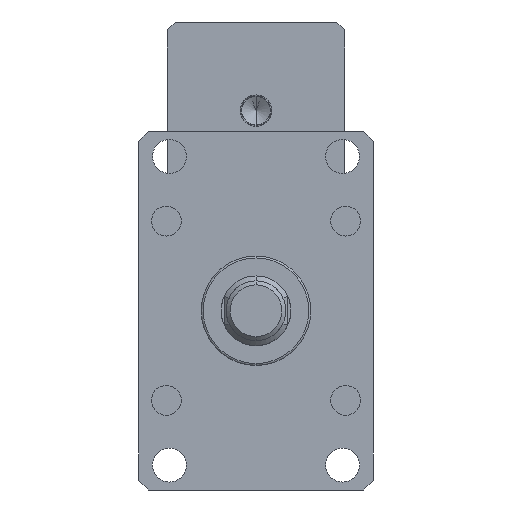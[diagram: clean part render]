
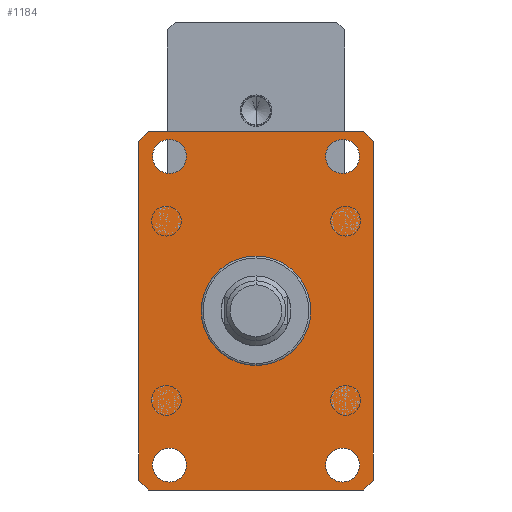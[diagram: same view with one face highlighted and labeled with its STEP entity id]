
A CAD part, front view. The second image highlights one B-rep face of the part: STEP entity #1184.
In plain terms, the highlighted planar face has unit normal (0, -1, 0).
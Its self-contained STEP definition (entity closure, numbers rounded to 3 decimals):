
#1 = VERTEX_POINT ( 'NONE', #10851 ) ;
#73 = CARTESIAN_POINT ( 'NONE',  ( -43.5, -55., -77.5 ) ) ;
#273 = CARTESIAN_POINT ( 'NONE',  ( 54., -55., 90. ) ) ;
#369 = EDGE_CURVE ( 'NONE', #1, #1921, #7012, .T. ) ;
#375 = ORIENTED_EDGE ( 'NONE', *, *, #2462, .T. ) ;
#418 = CARTESIAN_POINT ( 'NONE',  ( -59., -55., 85. ) ) ;
#448 = ORIENTED_EDGE ( 'NONE', *, *, #369, .T. ) ;
#453 = DIRECTION ( 'NONE',  ( 0., 0., 1. ) ) ;
#470 = ORIENTED_EDGE ( 'NONE', *, *, #4624, .F. ) ;
#483 = CARTESIAN_POINT ( 'NONE',  ( 43.5, -55., 69. ) ) ;
#488 = VERTEX_POINT ( 'NONE', #2943 ) ;
#687 = AXIS2_PLACEMENT_3D ( 'NONE', #73, #6825, #1028 ) ;
#701 = DIRECTION ( 'NONE',  ( 0., -1., 0. ) ) ;
#819 = DIRECTION ( 'NONE',  ( 0., 1., 0. ) ) ;
#846 = DIRECTION ( 'NONE',  ( 0.707, 0., 0.707 ) ) ;
#858 = EDGE_CURVE ( 'NONE', #1886, #2132, #4178, .T. ) ;
#861 = FACE_BOUND ( 'NONE', #6280, .T. ) ;
#1028 = DIRECTION ( 'NONE',  ( 0., 0., 1. ) ) ;
#1097 = ORIENTED_EDGE ( 'NONE', *, *, #4523, .T. ) ;
#1160 = FACE_BOUND ( 'NONE', #2180, .T. ) ;
#1184 = ADVANCED_FACE ( 'NONE', ( #1160, #861, #11184, #3411, #10889 ), #7749, .F. ) ;
#1386 = VERTEX_POINT ( 'NONE', #5522 ) ;
#1489 = ORIENTED_EDGE ( 'NONE', *, *, #4393, .T. ) ;
#1847 = AXIS2_PLACEMENT_3D ( 'NONE', #4198, #11038, #5178 ) ;
#1886 = VERTEX_POINT ( 'NONE', #10085 ) ;
#1921 = VERTEX_POINT ( 'NONE', #4429 ) ;
#1995 = DIRECTION ( 'NONE',  ( -0.707, 0., 0.707 ) ) ;
#2132 = VERTEX_POINT ( 'NONE', #6611 ) ;
#2141 = CARTESIAN_POINT ( 'NONE',  ( -59., -55., 85. ) ) ;
#2180 = EDGE_LOOP ( 'NONE', ( #7524, #5188 ) ) ;
#2193 = CIRCLE ( 'NONE', #7698, 8.5 ) ;
#2393 = LINE ( 'NONE', #5306, #7247 ) ;
#2462 = EDGE_CURVE ( 'NONE', #8118, #3808, #2193, .T. ) ;
#2609 = AXIS2_PLACEMENT_3D ( 'NONE', #3773, #10606, #4768 ) ;
#2691 = CARTESIAN_POINT ( 'NONE',  ( -59., -55., -85. ) ) ;
#2943 = CARTESIAN_POINT ( 'NONE',  ( -43.5, -55., 86. ) ) ;
#3090 = AXIS2_PLACEMENT_3D ( 'NONE', #6483, #701, #7488 ) ;
#3129 = CIRCLE ( 'NONE', #11623, 8.5 ) ;
#3315 = VERTEX_POINT ( 'NONE', #4162 ) ;
#3364 = CARTESIAN_POINT ( 'NONE',  ( -54., -55., -90. ) ) ;
#3411 = FACE_OUTER_BOUND ( 'NONE', #6104, .T. ) ;
#3760 = LINE ( 'NONE', #418, #8664 ) ;
#3773 = CARTESIAN_POINT ( 'NONE',  ( -43.5, -55., 77.5 ) ) ;
#3808 = VERTEX_POINT ( 'NONE', #5672 ) ;
#3843 = CIRCLE ( 'NONE', #2609, 8.5 ) ;
#3852 = DIRECTION ( 'NONE',  ( 0., 0., 1. ) ) ;
#4001 = CARTESIAN_POINT ( 'NONE',  ( -43.5, -55., -77.5 ) ) ;
#4055 = ORIENTED_EDGE ( 'NONE', *, *, #7840, .T. ) ;
#4162 = CARTESIAN_POINT ( 'NONE',  ( -54., -55., 90. ) ) ;
#4178 = CIRCLE ( 'NONE', #687, 8.5 ) ;
#4198 = CARTESIAN_POINT ( 'NONE',  ( -43.5, -55., 77.5 ) ) ;
#4266 = CARTESIAN_POINT ( 'NONE',  ( 43.5, -55., 77.5 ) ) ;
#4281 = DIRECTION ( 'NONE',  ( 0., 0., -1. ) ) ;
#4285 = VERTEX_POINT ( 'NONE', #273 ) ;
#4317 = EDGE_CURVE ( 'NONE', #8959, #488, #7880, .T. ) ;
#4393 = EDGE_CURVE ( 'NONE', #1921, #12203, #2393, .T. ) ;
#4409 = VECTOR ( 'NONE', #846, 1000. ) ;
#4429 = CARTESIAN_POINT ( 'NONE',  ( 59., -55., -85. ) ) ;
#4435 = CARTESIAN_POINT ( 'NONE',  ( -59., -55., 85. ) ) ;
#4523 = EDGE_CURVE ( 'NONE', #7138, #1386, #11211, .T. ) ;
#4624 = EDGE_CURVE ( 'NONE', #8616, #6832, #3129, .T. ) ;
#4768 = DIRECTION ( 'NONE',  ( 0., 0., -1. ) ) ;
#4778 = CARTESIAN_POINT ( 'NONE',  ( 59., -55., 85. ) ) ;
#4829 = LINE ( 'NONE', #3364, #9725 ) ;
#4858 = ORIENTED_EDGE ( 'NONE', *, *, #9373, .T. ) ;
#4898 = CARTESIAN_POINT ( 'NONE',  ( 43.5, -55., -86. ) ) ;
#4976 = DIRECTION ( 'NONE',  ( 0., 0., 1. ) ) ;
#5178 = DIRECTION ( 'NONE',  ( 0., 0., -1. ) ) ;
#5188 = ORIENTED_EDGE ( 'NONE', *, *, #4317, .F. ) ;
#5240 = DIRECTION ( 'NONE',  ( 0., 0., -1. ) ) ;
#5306 = CARTESIAN_POINT ( 'NONE',  ( 59., -55., 85. ) ) ;
#5342 = CIRCLE ( 'NONE', #12511, 8.5 ) ;
#5357 = EDGE_CURVE ( 'NONE', #4285, #3315, #11957, .T. ) ;
#5522 = CARTESIAN_POINT ( 'NONE',  ( -54., -55., -90. ) ) ;
#5672 = CARTESIAN_POINT ( 'NONE',  ( 43.5, -55., -69. ) ) ;
#5825 = EDGE_CURVE ( 'NONE', #488, #8959, #3843, .T. ) ;
#6015 = VECTOR ( 'NONE', #10474, 1000. ) ;
#6104 = EDGE_LOOP ( 'NONE', ( #12221, #10018, #4858, #1097, #4055, #448, #1489, #6897 ) ) ;
#6203 = ORIENTED_EDGE ( 'NONE', *, *, #12374, .T. ) ;
#6227 = DIRECTION ( 'NONE',  ( 0., 1., 0. ) ) ;
#6280 = EDGE_LOOP ( 'NONE', ( #8821, #375 ) ) ;
#6392 = VERTEX_POINT ( 'NONE', #4435 ) ;
#6483 = CARTESIAN_POINT ( 'NONE',  ( 43.5, -55., 77.5 ) ) ;
#6504 = CARTESIAN_POINT ( 'NONE',  ( -43.5, -55., 69. ) ) ;
#6606 = CARTESIAN_POINT ( 'NONE',  ( 43.5, -55., -77.5 ) ) ;
#6611 = CARTESIAN_POINT ( 'NONE',  ( -43.5, -55., -86. ) ) ;
#6817 = CIRCLE ( 'NONE', #3090, 8.5 ) ;
#6825 = DIRECTION ( 'NONE',  ( 0., 1., 0. ) ) ;
#6832 = VERTEX_POINT ( 'NONE', #10451 ) ;
#6833 = EDGE_LOOP ( 'NONE', ( #9473, #470 ) ) ;
#6897 = ORIENTED_EDGE ( 'NONE', *, *, #7688, .T. ) ;
#6933 = AXIS2_PLACEMENT_3D ( 'NONE', #4001, #10830, #4976 ) ;
#6968 = VECTOR ( 'NONE', #8995, 1000. ) ;
#7012 = LINE ( 'NONE', #11540, #4409 ) ;
#7138 = VERTEX_POINT ( 'NONE', #11032 ) ;
#7247 = VECTOR ( 'NONE', #12130, 1000. ) ;
#7424 = EDGE_CURVE ( 'NONE', #6832, #8616, #6817, .T. ) ;
#7479 = DIRECTION ( 'NONE',  ( 1., 0., 0. ) ) ;
#7488 = DIRECTION ( 'NONE',  ( 0., 0., -1. ) ) ;
#7524 = ORIENTED_EDGE ( 'NONE', *, *, #5825, .F. ) ;
#7616 = DIRECTION ( 'NONE',  ( 0., 0., 1. ) ) ;
#7688 = EDGE_CURVE ( 'NONE', #12203, #4285, #9254, .T. ) ;
#7698 = AXIS2_PLACEMENT_3D ( 'NONE', #12086, #6227, #453 ) ;
#7749 = PLANE ( 'NONE',  #8249 ) ;
#7840 = EDGE_CURVE ( 'NONE', #1386, #1, #4829, .T. ) ;
#7880 = CIRCLE ( 'NONE', #1847, 8.5 ) ;
#8118 = VERTEX_POINT ( 'NONE', #4898 ) ;
#8249 = AXIS2_PLACEMENT_3D ( 'NONE', #10639, #9707, #3852 ) ;
#8616 = VERTEX_POINT ( 'NONE', #483 ) ;
#8664 = VECTOR ( 'NONE', #4281, 1000. ) ;
#8801 = CARTESIAN_POINT ( 'NONE',  ( 54., -55., 90. ) ) ;
#8821 = ORIENTED_EDGE ( 'NONE', *, *, #10601, .T. ) ;
#8925 = EDGE_LOOP ( 'NONE', ( #11640, #6203 ) ) ;
#8959 = VERTEX_POINT ( 'NONE', #6504 ) ;
#8995 = DIRECTION ( 'NONE',  ( -0.707, 0., -0.707 ) ) ;
#9056 = VECTOR ( 'NONE', #12018, 1000. ) ;
#9254 = LINE ( 'NONE', #8801, #11543 ) ;
#9278 = EDGE_CURVE ( 'NONE', #3315, #6392, #9894, .T. ) ;
#9373 = EDGE_CURVE ( 'NONE', #6392, #7138, #3760, .T. ) ;
#9473 = ORIENTED_EDGE ( 'NONE', *, *, #7424, .F. ) ;
#9707 = DIRECTION ( 'NONE',  ( 0., 1., 0. ) ) ;
#9725 = VECTOR ( 'NONE', #7479, 1000. ) ;
#9894 = LINE ( 'NONE', #2141, #6968 ) ;
#10018 = ORIENTED_EDGE ( 'NONE', *, *, #9278, .T. ) ;
#10085 = CARTESIAN_POINT ( 'NONE',  ( -43.5, -55., -69. ) ) ;
#10451 = CARTESIAN_POINT ( 'NONE',  ( 43.5, -55., 86. ) ) ;
#10474 = DIRECTION ( 'NONE',  ( 0.707, 0., -0.707 ) ) ;
#10601 = EDGE_CURVE ( 'NONE', #3808, #8118, #5342, .T. ) ;
#10606 = DIRECTION ( 'NONE',  ( 0., -1., 0. ) ) ;
#10639 = CARTESIAN_POINT ( 'NONE',  ( 59., -55., 90. ) ) ;
#10830 = DIRECTION ( 'NONE',  ( 0., 1., 0. ) ) ;
#10851 = CARTESIAN_POINT ( 'NONE',  ( 54., -55., -90. ) ) ;
#10889 = FACE_BOUND ( 'NONE', #6833, .T. ) ;
#10963 = CIRCLE ( 'NONE', #6933, 8.5 ) ;
#11032 = CARTESIAN_POINT ( 'NONE',  ( -59., -55., -85. ) ) ;
#11038 = DIRECTION ( 'NONE',  ( 0., -1., 0. ) ) ;
#11044 = CARTESIAN_POINT ( 'NONE',  ( -54., -55., 90. ) ) ;
#11091 = DIRECTION ( 'NONE',  ( 0., -1., 0. ) ) ;
#11184 = FACE_BOUND ( 'NONE', #8925, .T. ) ;
#11211 = LINE ( 'NONE', #2691, #6015 ) ;
#11540 = CARTESIAN_POINT ( 'NONE',  ( 59., -55., -85. ) ) ;
#11543 = VECTOR ( 'NONE', #1995, 1000. ) ;
#11623 = AXIS2_PLACEMENT_3D ( 'NONE', #4266, #11091, #5240 ) ;
#11640 = ORIENTED_EDGE ( 'NONE', *, *, #858, .T. ) ;
#11957 = LINE ( 'NONE', #11044, #9056 ) ;
#12018 = DIRECTION ( 'NONE',  ( -1., 0., 0. ) ) ;
#12086 = CARTESIAN_POINT ( 'NONE',  ( 43.5, -55., -77.5 ) ) ;
#12130 = DIRECTION ( 'NONE',  ( 0., 0., 1. ) ) ;
#12203 = VERTEX_POINT ( 'NONE', #4778 ) ;
#12221 = ORIENTED_EDGE ( 'NONE', *, *, #5357, .T. ) ;
#12374 = EDGE_CURVE ( 'NONE', #2132, #1886, #10963, .T. ) ;
#12511 = AXIS2_PLACEMENT_3D ( 'NONE', #6606, #819, #7616 ) ;
